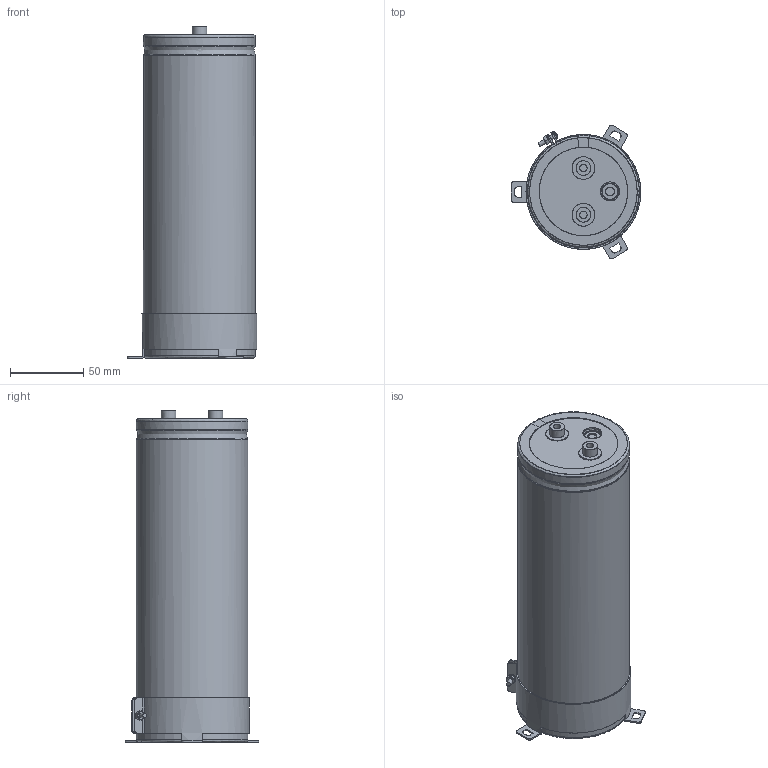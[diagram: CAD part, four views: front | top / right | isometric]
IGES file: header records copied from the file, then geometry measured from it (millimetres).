
Start section: JAMA-IS VERSION  1.0
Bounding box: 88.3 x 90.75 x 226 mm (x, y, z)
Surface area: 187873.6 mm2 (no closed solid volume)
Topology: 0 solids, 0 shells, 259 faces, 4448 edges, 4417 vertices
Faces by surface type: bspline 259
